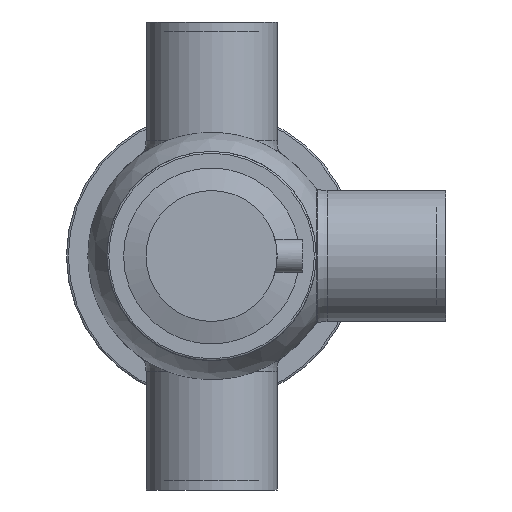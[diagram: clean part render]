
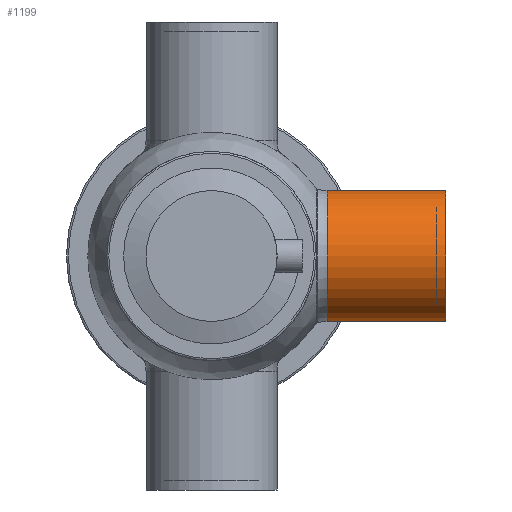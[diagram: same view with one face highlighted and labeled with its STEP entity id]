
A CAD part, front view. The second image highlights one B-rep face of the part: STEP entity #1199.
In plain terms, the highlighted cylindrical face has radius 35 mm (diameter 70 mm), a full revolution.
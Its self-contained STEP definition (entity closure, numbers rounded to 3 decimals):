
#132=FACE_OUTER_BOUND('',#210,.T.);
#210=EDGE_LOOP('',(#836,#837,#838,#839,#840,#841,#842));
#294=LINE('',#2180,#326);
#326=VECTOR('',#1658,35.);
#378=CIRCLE('',#1392,35.);
#379=CIRCLE('',#1393,35.);
#380=CIRCLE('',#1394,35.);
#381=CIRCLE('',#1395,35.);
#382=CIRCLE('',#1396,35.);
#514=VERTEX_POINT('',#2173);
#515=VERTEX_POINT('',#2174);
#516=VERTEX_POINT('',#2176);
#517=VERTEX_POINT('',#2179);
#518=VERTEX_POINT('',#2181);
#646=EDGE_CURVE('',#514,#515,#378,.T.);
#647=EDGE_CURVE('',#516,#514,#379,.T.);
#648=EDGE_CURVE('',#515,#516,#380,.T.);
#649=EDGE_CURVE('',#515,#517,#294,.T.);
#650=EDGE_CURVE('',#517,#518,#381,.T.);
#651=EDGE_CURVE('',#518,#517,#382,.T.);
#836=ORIENTED_EDGE('',*,*,#646,.F.);
#837=ORIENTED_EDGE('',*,*,#647,.F.);
#838=ORIENTED_EDGE('',*,*,#648,.F.);
#839=ORIENTED_EDGE('',*,*,#649,.T.);
#840=ORIENTED_EDGE('',*,*,#650,.T.);
#841=ORIENTED_EDGE('',*,*,#651,.T.);
#842=ORIENTED_EDGE('',*,*,#649,.F.);
#1171=CYLINDRICAL_SURFACE('',#1391,35.);
#1199=ADVANCED_FACE('',(#132),#1171,.T.);
#1391=AXIS2_PLACEMENT_3D('',#2172,#1650,#1651);
#1392=AXIS2_PLACEMENT_3D('',#2175,#1652,#1653);
#1393=AXIS2_PLACEMENT_3D('',#2177,#1654,#1655);
#1394=AXIS2_PLACEMENT_3D('',#2178,#1656,#1657);
#1395=AXIS2_PLACEMENT_3D('',#2182,#1659,#1660);
#1396=AXIS2_PLACEMENT_3D('',#2183,#1661,#1662);
#1650=DIRECTION('center_axis',(0.,0.,-1.));
#1651=DIRECTION('ref_axis',(0.,-1.,0.));
#1652=DIRECTION('center_axis',(0.,0.,-1.));
#1653=DIRECTION('ref_axis',(0.,1.,0.));
#1654=DIRECTION('center_axis',(0.,0.,-1.));
#1655=DIRECTION('ref_axis',(0.,1.,0.));
#1656=DIRECTION('center_axis',(0.,0.,-1.));
#1657=DIRECTION('ref_axis',(0.,1.,0.));
#1658=DIRECTION('',(0.,0.,1.));
#1659=DIRECTION('center_axis',(0.,0.,-1.));
#1660=DIRECTION('ref_axis',(0.,1.,0.));
#1661=DIRECTION('center_axis',(0.,0.,-1.));
#1662=DIRECTION('ref_axis',(0.,1.,0.));
#2172=CARTESIAN_POINT('Origin',(0.,-91.,
80.859));
#2173=CARTESIAN_POINT('',(-35.,-91.,61.719));
#2174=CARTESIAN_POINT('',(0.,-56.,61.719));
#2175=CARTESIAN_POINT('Origin',(0.,-91.,
61.719));
#2176=CARTESIAN_POINT('',(35.,-91.,61.719));
#2177=CARTESIAN_POINT('Origin',(0.,-91.,
61.719));
#2178=CARTESIAN_POINT('Origin',(0.,-91.,
61.719));
#2179=CARTESIAN_POINT('',(0.,-56.,125.));
#2180=CARTESIAN_POINT('',(0.,-56.,80.859));
#2181=CARTESIAN_POINT('',(0.,-126.,125.));
#2182=CARTESIAN_POINT('Origin',(0.,-91.,
125.));
#2183=CARTESIAN_POINT('Origin',(0.,-91.,
125.));
